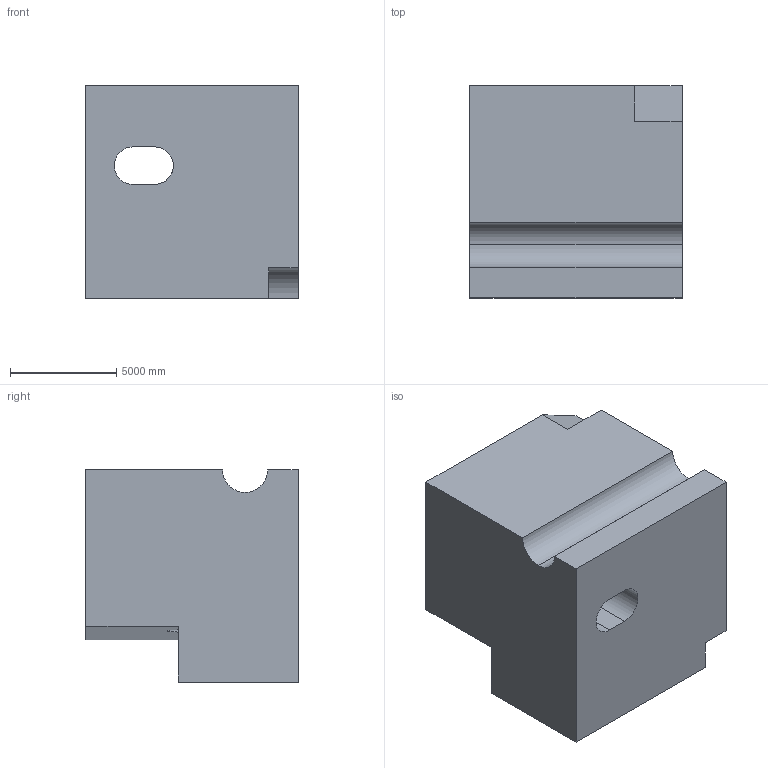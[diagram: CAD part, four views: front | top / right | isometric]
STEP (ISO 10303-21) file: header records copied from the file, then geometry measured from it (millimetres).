
FILE_DESCRIPTION (( 'STEP AP203' ), '1' );
FILE_NAME ('1740.STEP', '2022-08-19T12:16:11', ( 'user' ), ( '' ), 'SwSTEP 2.0', 'SolidWorks 2021', '' );
FILE_SCHEMA (( 'CONFIG_CONTROL_DESIGN' ));
Length unit declared in the file: centimetre
Products named in the file (1): 1740
Bounding box: 10000 x 10000 x 10000 mm (x, y, z)
Volume: 796142587064.5 mm3; surface area: 733710830.4 mm2
Topology: 1 solids, 1 shells, 35 faces, 105 edges, 70 vertices
Faces by surface type: plane 26, cylinder 9
Entity records: 1483 total; most frequent: CARTESIAN_POINT 451, ORIENTED_EDGE 210, DIRECTION 189, EDGE_CURVE 105, VECTOR 73, LINE 73, VERTEX_POINT 70, AXIS2_PLACEMENT_3D 58
